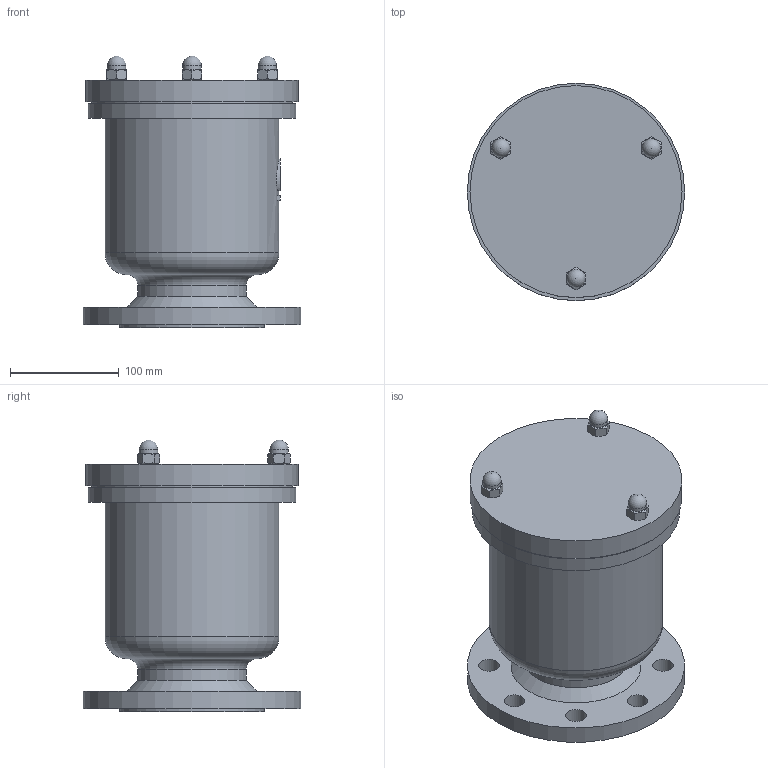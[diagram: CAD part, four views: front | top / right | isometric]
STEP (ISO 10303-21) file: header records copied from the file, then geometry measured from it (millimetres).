
FILE_DESCRIPTION(('STEP AP203'), '1');
FILE_NAME('A10F.Z DN80', '', ('UNSPECIFIED'), ('UNSPECIFIED'), 'ASCON STEP Converter 1.6', 'ASCON Math Kernel', '');
FILE_SCHEMA(('CONFIG_CONTROL_DESIGN'));
Length unit declared in the file: millimetre
Products named in the file (2): A10F.Z DN80
Assembly tree (3 placements, depth 2):
  A10F.Z DN80
    (unnamed)  x3
Bounding box: 200 x 200 x 250 mm (x, y, z)
Volume: 3650301.4 mm3; surface area: 276728.8 mm2
Topology: 1 solids, 4 shells, 89 faces, 197 edges, 126 vertices
Faces by surface type: plane 42, cylinder 29, cone 13, sphere 3, torus 2
Full cylindrical faces by diameter (mm): 10.106 x3, 17 x3, 19 x8, 80 x1, 100 x1, 133 x1, 160 x1, 185 x1, 191 x1, 195 x1, 200 x1
Entity records: 5089 total; most frequent: CARTESIAN_POINT 2469, DIRECTION 357, ORIENTED_EDGE 302, AXIS2_PLACEMENT_3D 158, EDGE_LOOP 154, EDGE_CURVE 151, VERTEX_POINT 119, COLOUR_RGB 91
